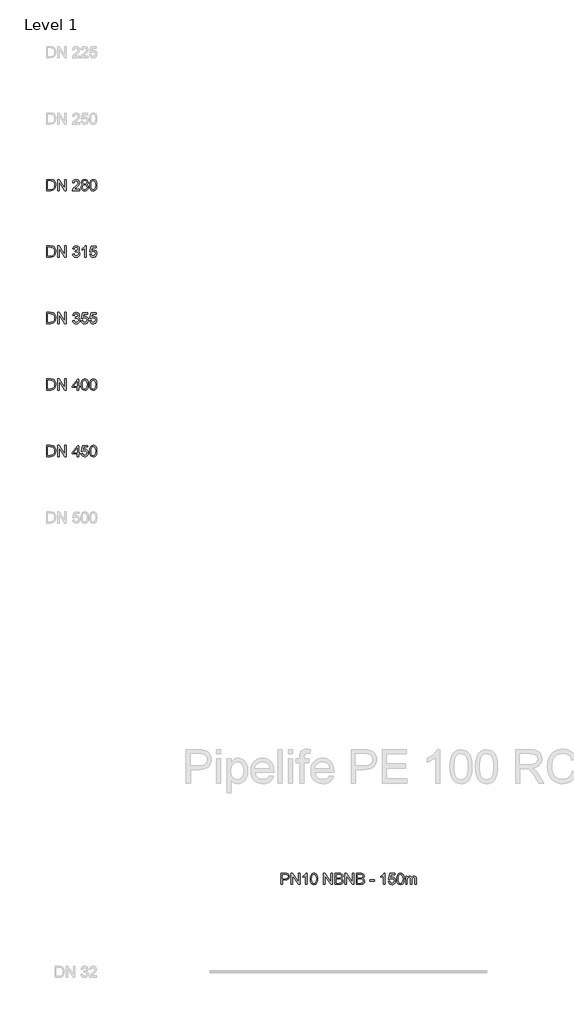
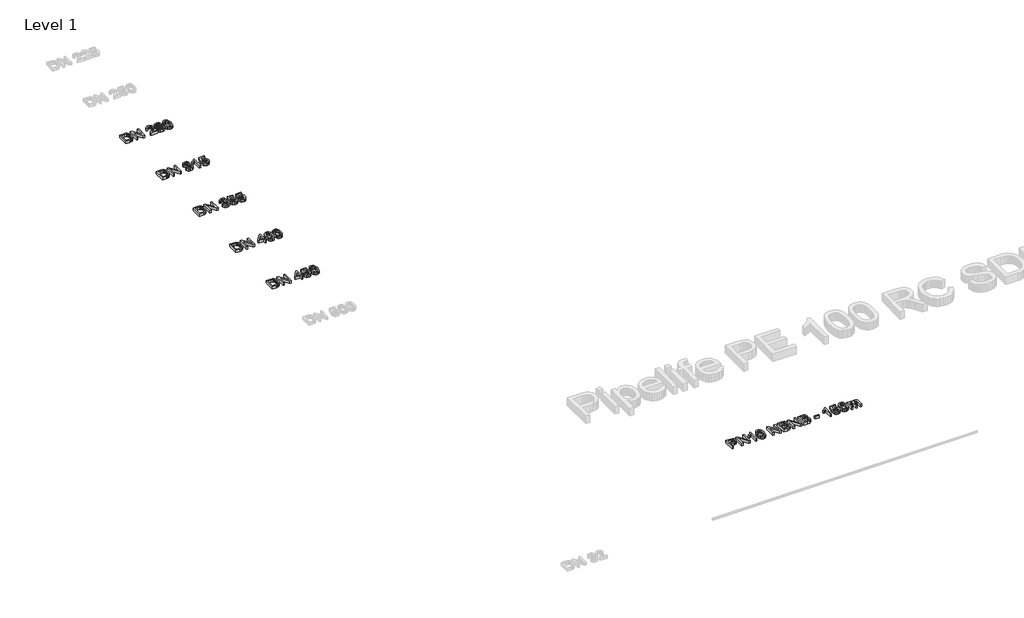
# One storey, part 5 of 17: 6 proxies.
"""IFC4 building model written with IfcOpenShell, lengths in millimetres."""

from ifc_helpers import new_model, si_unit, origin, origin_with_axes, place, context, project, spatial, polyline, outline, extrude, element, save

model = new_model("IFC4")

# Units and contexts
model_context = context("Model", 3, world=origin())
ifc_project = project(units=[si_unit("LENGTHUNIT", "METRE", prefix="MILLI")], contexts=[model_context])

# Site, building, storey
site = spatial("IfcSite", under=ifc_project)
building = spatial("IfcBuilding", under=site)
storey = spatial("IfcBuildingStorey", under=building, Name="Level 1", Elevation=0.0)

# Proxies
placement = place(None, origin())
element("IfcBuildingElementProxy", 1, Name="200mm Arial", ObjectType="200mm Arial", at=placement, inside=storey, context=model_context, shape_type="SweptSolid", body=[
    extrude(outline(polyline([(-19491.3116028, -17513.949573), (-19491.3116028, -17313.0369527), (-19422.0026349, -17313.0369527), (-19386.1464031, -17315.9309577), (-19370.1312736, -17321.5105013), (-19356.6177416, -17330.302881), (-19342.724065, -17345.606772), (-19332.8280393, -17364.6385338), (-19326.9051392, -17387.0302846), (-19324.9308391, -17412.4141423), (-19330.2773908, -17452.9547382), (-19344.0116519, -17482.2136195), (-19362.3567008, -17500.436041), (-19386.3671323, -17510.5160077), (-19418.6671715, -17513.949573), (-19491.3116028, -17513.949573)]), holes=[polyline([(-19466.1975253, -17488.8354954), (-19421.7573803, -17488.8354954), (-19389.4328156, -17485.2057264), (-19370.7934612, -17474.9540815), (-19362.0685265, -17464.0831685), (-19355.5140957, -17450.0116822), (-19351.4122114, -17432.6783089), (-19350.0449167, -17412.0217348), (-19352.7243239, -17384.6513144), (-19360.7625455, -17364.4423301), (-19372.6390025, -17350.5609162), (-19386.8331162, -17342.1732067), (-19422.4440933, -17338.1510302), (-19466.1975253, -17338.1510302), (-19466.1975253, -17488.8354954)])]), origin_with_axes(), (0.0, 0.0, 1.0), 50.0),
    extrude(outline(polyline([(-19290.3989825, -17513.949573), (-19290.3989825, -17313.0369527), (-19263.5190714, -17313.0369527), (-19158.5500754, -17472.2072292), (-19158.5500754, -17313.0369527), (-19133.4359979, -17313.0369527), (-19133.4359979, -17513.949573), (-19160.315909, -17513.949573), (-19265.284905, -17354.7302454), (-19265.284905, -17513.949573), (-19290.3989825, -17513.949573)])), origin_with_axes(), (0.0, 0.0, 1.0), 50.0),
    extrude(outline(polyline([(-19020.422649, -17460.5821582), (-18995.3085714, -17457.4428985), (-18989.6861083, -17473.2250361), (-18981.451683, -17483.8813512), (-18970.2006253, -17489.9514041), (-18955.528265, -17491.9747551), (-18938.3113877, -17489.1911147), (-18925.0185849, -17480.8401934), (-18916.5205108, -17468.3812565), (-18913.6878195, -17453.2735692), (-18916.4959853, -17438.9323028), (-18924.920483, -17427.3011004), (-18937.6737255, -17419.5939726), (-18953.4681259, -17417.02493), (-18971.0774107, -17419.7717822), (-18968.2815075, -17394.6577047), (-18964.2593311, -17394.9520102), (-18949.2129575, -17393.1493885), (-18935.7607392, -17387.7415231), (-18926.2693837, -17378.5935242), (-18923.1055985, -17365.5705016), (-18925.3987296, -17354.7241141), (-18932.2781229, -17345.925603), (-18942.7750225, -17340.0946734), (-18955.9206725, -17338.1510302), (-18969.0908479, -17340.1130675), (-18979.8575277, -17345.9991794), (-18987.7179396, -17355.809366), (-18992.1693118, -17369.5436271), (-19017.2833893, -17366.4043674), (-19009.8889612, -17343.8532011), (-18996.7310485, -17327.0164685), (-18978.7293562, -17316.5318316), (-18956.8035893, -17313.0369527), (-18941.0153203, -17314.7598667), (-18926.5146384, -17319.9286087), (-18914.2886934, -17328.0833263), (-18905.3246354, -17338.7641669), (-18899.8247996, -17351.0698196), (-18897.991521, -17364.0989736), (-18899.7328291, -17376.2390794), (-18904.9567534, -17387.2510138), (-18913.5897176, -17396.6320047), (-18925.5581452, -17403.87928), (-18909.8373212, -17410.2313758), (-18898.1877247, -17421.0471064), (-18890.9772376, -17435.7378608), (-18888.5737419, -17453.7150276), (-18893.3807333, -17478.191443), (-18907.8017075, -17498.645682), (-18929.5680589, -17512.478045), (-18956.4111818, -17517.0888326), (-18980.6913935, -17513.1524953), (-19000.4589194, -17501.3434833), (-19014.2054433, -17483.2804773), (-19020.422649, -17460.5821582)])), origin_with_axes(), (0.0, 0.0, 1.0), 50.0),
    extrude(outline(polyline([(-18772.4211333, -17513.949573), (-18797.5352108, -17513.949573), (-18797.5352108, -17357.3789958), (-18821.3249132, -17374.3260931), (-18847.7633659, -17387.0057592), (-18847.7633659, -17363.2651077), (-18810.9506409, -17339.769711), (-18797.4800285, -17326.1948653), (-18788.6079411, -17313.0369527), (-18772.4211333, -17313.0369527), (-18772.4211333, -17513.949573)])), origin_with_axes(), (0.0, 0.0, 1.0), 50.0),
    extrude(outline(polyline([(-18712.7751992, -17460.5821582), (-18687.6611216, -17457.4428985), (-18683.0503339, -17472.5199289), (-18675.005981, -17483.3172655), (-18663.5648509, -17489.8103827), (-18648.763732, -17491.9747551), (-18630.7620397, -17488.9642541), (-18617.2730332, -17479.9327511), (-18608.8485355, -17465.9225785), (-18606.0403696, -17447.9760685), (-18608.6707259, -17431.0780222), (-18616.5617947, -17418.1531014), (-18629.7748897, -17409.9493329), (-18648.3713245, -17407.2147434), (-18670.4197188, -17411.5802764), (-18684.5218619, -17422.9110419), (-18709.6359395, -17419.7717822), (-18687.6611216, -17316.1762123), (-18590.3440712, -17316.1762123), (-18590.3440712, -17341.2902899), (-18667.3540355, -17341.2902899), (-18678.0961897, -17396.619742), (-18660.1558111, -17385.7304349), (-18641.3570412, -17382.1006659), (-18617.8923012, -17386.601089), (-18598.4129496, -17400.1023582), (-18585.2979565, -17420.6792244), (-18580.9262921, -17446.4064386), (-18584.8626294, -17471.5205162), (-18596.6716415, -17493.0048247), (-18607.1072274, -17503.5415782), (-18619.2841214, -17511.0678307), (-18633.2023236, -17515.5835821), (-18648.8618339, -17517.0888326), (-18673.5283216, -17513.2199403), (-18693.1793515, -17501.6132634), (-18706.6499639, -17483.6177025), (-18712.7751992, -17460.5821582)])), origin_with_axes(), (0.0, 0.0, 1.0), 50.0),
])
element("IfcBuildingElementProxy", 2, Name="200mm Arial", ObjectType="200mm Arial", at=placement, inside=storey, context=model_context, shape_type="SweptSolid", body=[
    extrude(outline(polyline([(-19491.3116028, -19913.949573), (-19491.3116028, -19713.0369527), (-19422.0026349, -19713.0369527), (-19386.1464031, -19715.9309577), (-19370.1312736, -19721.5105013), (-19356.6177416, -19730.302881), (-19342.724065, -19745.606772), (-19332.8280393, -19764.6385338), (-19326.9051392, -19787.0302846), (-19324.9308391, -19812.4141423), (-19330.2773908, -19852.9547382), (-19344.0116519, -19882.2136195), (-19362.3567008, -19900.436041), (-19386.3671323, -19910.5160077), (-19418.6671715, -19913.949573), (-19491.3116028, -19913.949573)]), holes=[polyline([(-19466.1975253, -19888.8354954), (-19421.7573803, -19888.8354954), (-19389.4328156, -19885.2057264), (-19370.7934612, -19874.9540815), (-19362.0685265, -19864.0831685), (-19355.5140957, -19850.0116822), (-19351.4122114, -19832.6783089), (-19350.0449167, -19812.0217348), (-19352.7243239, -19784.6513144), (-19360.7625455, -19764.4423301), (-19372.6390025, -19750.5609162), (-19386.8331162, -19742.1732067), (-19422.4440933, -19738.1510302), (-19466.1975253, -19738.1510302), (-19466.1975253, -19888.8354954)])]), origin_with_axes(), (0.0, 0.0, 1.0), 50.0),
    extrude(outline(polyline([(-19290.3989825, -19913.949573), (-19290.3989825, -19713.0369527), (-19263.5190714, -19713.0369527), (-19158.5500754, -19872.2072292), (-19158.5500754, -19713.0369527), (-19133.4359979, -19713.0369527), (-19133.4359979, -19913.949573), (-19160.315909, -19913.949573), (-19265.284905, -19754.7302454), (-19265.284905, -19913.949573), (-19290.3989825, -19913.949573)])), origin_with_axes(), (0.0, 0.0, 1.0), 50.0),
    extrude(outline(polyline([(-18938.801897, -19913.949573), (-18938.801897, -19866.8606776), (-19029.8404281, -19866.8606776), (-19029.8404281, -19841.7466), (-18932.5233776, -19716.1762123), (-18913.6878195, -19716.1762123), (-18913.6878195, -19841.7466), (-18888.5737419, -19841.7466), (-18888.5737419, -19866.8606776), (-18913.6878195, -19866.8606776), (-18913.6878195, -19913.949573), (-18938.801897, -19913.949573)]), holes=[polyline([(-18938.801897, -19841.7466), (-18938.801897, -19764.1480245), (-18998.9383405, -19841.7466), (-18938.801897, -19841.7466)])]), origin_with_axes(), (0.0, 0.0, 1.0), 50.0),
    extrude(outline(polyline([(-18866.5989241, -19815.1119436), (-18864.7533827, -19782.9529258), (-18859.2167587, -19757.3054194), (-18850.0442343, -19737.7770168), (-18837.2909918, -19723.9753106), (-18820.8650607, -19715.7715422), (-18800.6744705, -19713.0369527), (-18785.1989013, -19714.6556334), (-18771.3420128, -19719.5116758), (-18759.7537299, -19727.4150073), (-18751.0839776, -19738.1755557), (-18739.3117537, -19767.9004209), (-18734.750017, -19815.1119436), (-18736.5771642, -19847.0870203), (-18742.058606, -19872.6732131), (-18751.1759481, -19892.2200098), (-18763.9107965, -19906.0768983), (-18780.3735158, -19914.335849), (-18800.6744705, -19917.0888326), (-18826.7695667, -19912.3063667), (-18846.5861435, -19897.9589689), (-18855.341735, -19882.8298218), (-18861.5957289, -19863.9789353), (-18866.5989241, -19815.1119436)]), holes=[polyline([(-18841.4848465, -19815.0628927), (-18838.5417906, -19854.5672876), (-18829.7126227, -19877.4311536), (-18816.5669727, -19888.3388547), (-18800.6744705, -19891.9747551), (-18784.7819683, -19888.326592), (-18771.6363184, -19877.3821026), (-18762.8071505, -19854.5059739), (-18759.8640945, -19815.0628927), (-18762.7090486, -19776.4475459), (-18771.2439109, -19753.4058703), (-18784.3650354, -19741.9647402), (-18800.9687761, -19738.1510302), (-18816.6896001, -19741.5110191), (-18829.3202152, -19751.5909857), (-18838.4436887, -19776.0674012), (-18841.4848465, -19815.0628927)])]), origin_with_axes(), (0.0, 0.0, 1.0), 50.0),
    extrude(outline(polyline([(-18712.7751992, -19815.1119436), (-18710.9296578, -19782.9529258), (-18705.3930338, -19757.3054194), (-18696.2205094, -19737.7770168), (-18683.4672669, -19723.9753106), (-18667.0413358, -19715.7715422), (-18646.8507456, -19713.0369527), (-18631.3751764, -19714.6556334), (-18617.5182879, -19719.5116758), (-18605.930005, -19727.4150073), (-18597.2602527, -19738.1755557), (-18585.4880288, -19767.9004209), (-18580.9262921, -19815.1119436), (-18582.7534393, -19847.0870203), (-18588.2348811, -19872.6732131), (-18597.3522232, -19892.2200098), (-18610.0870716, -19906.0768983), (-18626.5497909, -19914.335849), (-18646.8507456, -19917.0888326), (-18672.9458418, -19912.3063667), (-18692.7624186, -19897.9589689), (-18701.5180101, -19882.8298218), (-18707.772004, -19863.9789353), (-18712.7751992, -19815.1119436)]), holes=[polyline([(-18687.6611216, -19815.0628927), (-18684.7180657, -19854.5672876), (-18675.8888978, -19877.4311536), (-18662.7432478, -19888.3388547), (-18646.8507456, -19891.9747551), (-18630.9582434, -19888.326592), (-18617.8125935, -19877.3821026), (-18608.9834256, -19854.5059739), (-18606.0403696, -19815.0628927), (-18608.8853237, -19776.4475459), (-18617.420186, -19753.4058703), (-18630.5413105, -19741.9647402), (-18647.1450512, -19738.1510302), (-18662.8658751, -19741.5110191), (-18675.4964903, -19751.5909857), (-18684.6199638, -19776.0674012), (-18687.6611216, -19815.0628927)])]), origin_with_axes(), (0.0, 0.0, 1.0), 50.0),
])
element("IfcBuildingElementProxy", 3, Name="200mm Arial", ObjectType="200mm Arial", at=placement, inside=storey, context=model_context, shape_type="SweptSolid", body=[
    extrude(outline(polyline([(-19491.3116028, -16313.949573), (-19491.3116028, -16113.0369527), (-19422.0026349, -16113.0369527), (-19386.1464031, -16115.9309577), (-19370.1312736, -16121.5105013), (-19356.6177416, -16130.302881), (-19342.724065, -16145.606772), (-19332.8280393, -16164.6385338), (-19326.9051392, -16187.0302846), (-19324.9308391, -16212.4141423), (-19330.2773908, -16252.9547382), (-19344.0116519, -16282.2136195), (-19362.3567008, -16300.436041), (-19386.3671323, -16310.5160077), (-19418.6671715, -16313.949573), (-19491.3116028, -16313.949573)]), holes=[polyline([(-19466.1975253, -16288.8354954), (-19421.7573803, -16288.8354954), (-19389.4328156, -16285.2057264), (-19370.7934612, -16274.9540815), (-19362.0685265, -16264.0831685), (-19355.5140957, -16250.0116822), (-19351.4122114, -16232.6783089), (-19350.0449167, -16212.0217348), (-19352.7243239, -16184.6513144), (-19360.7625455, -16164.4423301), (-19372.6390025, -16150.5609162), (-19386.8331162, -16142.1732067), (-19422.4440933, -16138.1510302), (-19466.1975253, -16138.1510302), (-19466.1975253, -16288.8354954)])]), origin_with_axes(), (0.0, 0.0, 1.0), 50.0),
    extrude(outline(polyline([(-19290.3989825, -16313.949573), (-19290.3989825, -16113.0369527), (-19263.5190714, -16113.0369527), (-19158.5500754, -16272.2072292), (-19158.5500754, -16113.0369527), (-19133.4359979, -16113.0369527), (-19133.4359979, -16313.949573), (-19160.315909, -16313.949573), (-19265.284905, -16154.7302454), (-19265.284905, -16313.949573), (-19290.3989825, -16313.949573)])), origin_with_axes(), (0.0, 0.0, 1.0), 50.0),
    extrude(outline(polyline([(-18891.7130016, -16288.8354954), (-18891.7130016, -16313.949573), (-19023.5619087, -16313.949573), (-19020.8641074, -16296.6345937), (-19005.6092673, -16269.9754118), (-18974.1676195, -16240.8636832), (-18930.806595, -16199.0232377), (-18922.6764029, -16184.6022634), (-18919.9663388, -16170.5736967), (-18922.5231187, -16157.9982638), (-18930.1934583, -16147.5442838), (-18941.9840762, -16140.4993436), (-18956.9016912, -16138.1510302), (-18972.5673328, -16140.4441613), (-18984.7380955, -16147.3235546), (-18992.5923761, -16158.2496499), (-18995.3085714, -16172.6828868), (-19020.422649, -16169.5436271), (-19014.334202, -16145.2511527), (-19001.1701579, -16127.5069778), (-18981.6172299, -16116.6544589), (-18956.3621309, -16113.0369527), (-18930.9230909, -16117.0591291), (-18911.4069511, -16129.1256586), (-18898.9909337, -16147.1518763), (-18894.8522613, -16169.0531178), (-18899.3158962, -16192.8673456), (-18914.1538033, -16217.4909138), (-18950.1326624, -16251.9001431), (-18979.0236618, -16276.0577275), (-18990.3544272, -16288.8354954), (-18891.7130016, -16288.8354954)])), origin_with_axes(), (0.0, 0.0, 1.0), 50.0),
    extrude(outline(polyline([(-18830.0069283, -16203.2906688), (-18843.4530152, -16196.6687929), (-18852.8891884, -16187.6924722), (-18858.4626006, -16176.5456478), (-18860.3204047, -16163.4122605), (-18856.2737027, -16143.7796247), (-18844.1335969, -16127.5560287), (-18825.2612505, -16116.6667217), (-18801.0178271, -16113.0369527), (-18776.6272508, -16116.7525608), (-18757.5096498, -16127.8993853), (-18745.1488147, -16144.3804986), (-18741.0285364, -16164.0989736), (-18742.861815, -16176.8092965), (-18748.3616508, -16187.7660486), (-18757.5893575, -16196.687187), (-18770.6062488, -16203.2906688), (-18755.1490736, -16211.255314), (-18743.8980159, -16222.9846183), (-18737.0370167, -16237.9144959), (-18734.750017, -16255.4808612), (-18739.2872283, -16279.4912927), (-18752.8988621, -16299.332395), (-18773.9171868, -16312.6497232), (-18800.6744705, -16317.0888326), (-18827.4317543, -16312.6313291), (-18848.450079, -16299.2588186), (-18862.0617128, -16279.227644), (-18866.5989241, -16254.7941481), (-18864.2199538, -16236.5472012), (-18857.0830431, -16221.5376158), (-18845.5560739, -16210.2804267), (-18830.0069283, -16203.2906688)]), holes=[polyline([(-18841.4848465, -16253.9112313), (-18837.2909918, -16272.8203659), (-18831.4845876, -16280.9321639), (-18822.4530846, -16286.97156), (-18800.4782668, -16291.9747551), (-18783.3840168, -16289.3443988), (-18770.5571979, -16281.45333), (-18762.5373704, -16269.5032966), (-18759.8640945, -16254.6960463), (-18762.6232095, -16239.6374099), (-18770.9005544, -16227.4237277), (-18784.0216789, -16219.3303238), (-18801.3121327, -16216.6325225), (-18818.1672594, -16219.2935356), (-18830.8653196, -16227.2765749), (-18838.8299648, -16239.2572652), (-18841.4848465, -16253.9112313)]), polyline([(-18835.2063271, -16164.1480245), (-18832.9806411, -16175.110908), (-18826.3035829, -16183.8664995), (-18815.3713562, -16189.6054586), (-18800.3801649, -16191.518445), (-18785.7384615, -16189.6177213), (-18774.9717818, -16183.9155504), (-18768.3499059, -16175.4542645), (-18766.1426139, -16165.276196), (-18768.4234823, -16154.7118513), (-18775.2660874, -16145.974654), (-18786.1799199, -16140.1069361), (-18800.6744705, -16138.1510302), (-18815.2609916, -16140.0640166), (-18826.1564301, -16145.8029757), (-18832.9438529, -16154.2152106), (-18835.2063271, -16164.1480245)])]), origin_with_axes(), (0.0, 0.0, 1.0), 50.0),
    extrude(outline(polyline([(-18712.7751992, -16215.1119436), (-18710.9296578, -16182.9529258), (-18705.3930338, -16157.3054194), (-18696.2205094, -16137.7770168), (-18683.4672669, -16123.9753106), (-18667.0413358, -16115.7715422), (-18646.8507456, -16113.0369527), (-18631.3751764, -16114.6556334), (-18617.5182879, -16119.5116758), (-18605.930005, -16127.4150073), (-18597.2602527, -16138.1755557), (-18585.4880288, -16167.9004209), (-18580.9262921, -16215.1119436), (-18582.7534393, -16247.0870203), (-18588.2348811, -16272.6732131), (-18597.3522232, -16292.2200098), (-18610.0870716, -16306.0768983), (-18626.5497909, -16314.335849), (-18646.8507456, -16317.0888326), (-18672.9458418, -16312.3063667), (-18692.7624186, -16297.9589689), (-18701.5180101, -16282.8298218), (-18707.772004, -16263.9789353), (-18712.7751992, -16215.1119436)]), holes=[polyline([(-18687.6611216, -16215.0628927), (-18684.7180657, -16254.5672876), (-18675.8888978, -16277.4311536), (-18662.7432478, -16288.3388547), (-18646.8507456, -16291.9747551), (-18630.9582434, -16288.326592), (-18617.8125935, -16277.3821026), (-18608.9834256, -16254.5059739), (-18606.0403696, -16215.0628927), (-18608.8853237, -16176.4475459), (-18617.420186, -16153.4058703), (-18630.5413105, -16141.9647402), (-18647.1450512, -16138.1510302), (-18662.8658751, -16141.5110191), (-18675.4964903, -16151.5909857), (-18684.6199638, -16176.0674012), (-18687.6611216, -16215.0628927)])]), origin_with_axes(), (0.0, 0.0, 1.0), 50.0),
])
element("IfcBuildingElementProxy", 4, Name="200mm Arial", ObjectType="200mm Arial", at=placement, inside=storey, context=model_context, shape_type="SweptSolid", body=[
    extrude(outline(polyline([(-19491.3116028, -18713.949573), (-19491.3116028, -18513.0369527), (-19422.0026349, -18513.0369527), (-19386.1464031, -18515.9309577), (-19370.1312736, -18521.5105013), (-19356.6177416, -18530.302881), (-19342.724065, -18545.606772), (-19332.8280393, -18564.6385338), (-19326.9051392, -18587.0302846), (-19324.9308391, -18612.4141423), (-19330.2773908, -18652.9547382), (-19344.0116519, -18682.2136195), (-19362.3567008, -18700.436041), (-19386.3671323, -18710.5160077), (-19418.6671715, -18713.949573), (-19491.3116028, -18713.949573)]), holes=[polyline([(-19466.1975253, -18688.8354954), (-19421.7573803, -18688.8354954), (-19389.4328156, -18685.2057264), (-19370.7934612, -18674.9540815), (-19362.0685265, -18664.0831685), (-19355.5140957, -18650.0116822), (-19351.4122114, -18632.6783089), (-19350.0449167, -18612.0217348), (-19352.7243239, -18584.6513144), (-19360.7625455, -18564.4423301), (-19372.6390025, -18550.5609162), (-19386.8331162, -18542.1732067), (-19422.4440933, -18538.1510302), (-19466.1975253, -18538.1510302), (-19466.1975253, -18688.8354954)])]), origin_with_axes(), (0.0, 0.0, 1.0), 50.0),
    extrude(outline(polyline([(-19290.3989825, -18713.949573), (-19290.3989825, -18513.0369527), (-19263.5190714, -18513.0369527), (-19158.5500754, -18672.2072292), (-19158.5500754, -18513.0369527), (-19133.4359979, -18513.0369527), (-19133.4359979, -18713.949573), (-19160.315909, -18713.949573), (-19265.284905, -18554.7302454), (-19265.284905, -18713.949573), (-19290.3989825, -18713.949573)])), origin_with_axes(), (0.0, 0.0, 1.0), 50.0),
    extrude(outline(polyline([(-19020.422649, -18660.5821582), (-18995.3085714, -18657.4428985), (-18989.6861083, -18673.2250361), (-18981.451683, -18683.8813512), (-18970.2006253, -18689.9514041), (-18955.528265, -18691.9747551), (-18938.3113877, -18689.1911147), (-18925.0185849, -18680.8401934), (-18916.5205108, -18668.3812565), (-18913.6878195, -18653.2735692), (-18916.4959853, -18638.9323028), (-18924.920483, -18627.3011004), (-18937.6737255, -18619.5939726), (-18953.4681259, -18617.02493), (-18971.0774107, -18619.7717822), (-18968.2815075, -18594.6577047), (-18964.2593311, -18594.9520102), (-18949.2129575, -18593.1493885), (-18935.7607392, -18587.7415231), (-18926.2693837, -18578.5935242), (-18923.1055985, -18565.5705016), (-18925.3987296, -18554.7241141), (-18932.2781229, -18545.925603), (-18942.7750225, -18540.0946734), (-18955.9206725, -18538.1510302), (-18969.0908479, -18540.1130675), (-18979.8575277, -18545.9991794), (-18987.7179396, -18555.809366), (-18992.1693118, -18569.5436271), (-19017.2833893, -18566.4043674), (-19009.8889612, -18543.8532011), (-18996.7310485, -18527.0164685), (-18978.7293562, -18516.5318316), (-18956.8035893, -18513.0369527), (-18941.0153203, -18514.7598667), (-18926.5146384, -18519.9286087), (-18914.2886934, -18528.0833263), (-18905.3246354, -18538.7641669), (-18899.8247996, -18551.0698196), (-18897.991521, -18564.0989736), (-18899.7328291, -18576.2390794), (-18904.9567534, -18587.2510138), (-18913.5897176, -18596.6320047), (-18925.5581452, -18603.87928), (-18909.8373212, -18610.2313758), (-18898.1877247, -18621.0471064), (-18890.9772376, -18635.7378608), (-18888.5737419, -18653.7150276), (-18893.3807333, -18678.191443), (-18907.8017075, -18698.645682), (-18929.5680589, -18712.478045), (-18956.4111818, -18717.0888326), (-18980.6913935, -18713.1524953), (-19000.4589194, -18701.3434833), (-19014.2054433, -18683.2804773), (-19020.422649, -18660.5821582)])), origin_with_axes(), (0.0, 0.0, 1.0), 50.0),
    extrude(outline(polyline([(-18866.5989241, -18660.5821582), (-18841.4848465, -18657.4428985), (-18836.8740589, -18672.5199289), (-18828.8297059, -18683.3172655), (-18817.3885758, -18689.8103827), (-18802.5874569, -18691.9747551), (-18784.5857646, -18688.9642541), (-18771.0967581, -18679.9327511), (-18762.6722604, -18665.9225785), (-18759.8640945, -18647.9760685), (-18762.4944508, -18631.0780222), (-18770.3855196, -18618.1531014), (-18783.5986146, -18609.9493329), (-18802.1950494, -18607.2147434), (-18824.2434437, -18611.5802764), (-18838.3455868, -18622.9110419), (-18863.4596644, -18619.7717822), (-18841.4848465, -18516.1762123), (-18744.1677961, -18516.1762123), (-18744.1677961, -18541.2902899), (-18821.1777604, -18541.2902899), (-18831.9199147, -18596.619742), (-18813.979536, -18585.7304349), (-18795.1807661, -18582.1006659), (-18771.7160261, -18586.601089), (-18752.2366745, -18600.1023582), (-18739.1216814, -18620.6792244), (-18734.750017, -18646.4064386), (-18738.6863543, -18671.5205162), (-18750.4953664, -18693.0048247), (-18760.9309523, -18703.5415782), (-18773.1078464, -18711.0678307), (-18787.0260485, -18715.5835821), (-18802.6855588, -18717.0888326), (-18827.3520466, -18713.2199403), (-18847.0030765, -18701.6132634), (-18860.4736888, -18683.6177025), (-18866.5989241, -18660.5821582)])), origin_with_axes(), (0.0, 0.0, 1.0), 50.0),
    extrude(outline(polyline([(-18712.7751992, -18660.5821582), (-18687.6611216, -18657.4428985), (-18683.0503339, -18672.5199289), (-18675.005981, -18683.3172655), (-18663.5648509, -18689.8103827), (-18648.763732, -18691.9747551), (-18630.7620397, -18688.9642541), (-18617.2730332, -18679.9327511), (-18608.8485355, -18665.9225785), (-18606.0403696, -18647.9760685), (-18608.6707259, -18631.0780222), (-18616.5617947, -18618.1531014), (-18629.7748897, -18609.9493329), (-18648.3713245, -18607.2147434), (-18670.4197188, -18611.5802764), (-18684.5218619, -18622.9110419), (-18709.6359395, -18619.7717822), (-18687.6611216, -18516.1762123), (-18590.3440712, -18516.1762123), (-18590.3440712, -18541.2902899), (-18667.3540355, -18541.2902899), (-18678.0961897, -18596.619742), (-18660.1558111, -18585.7304349), (-18641.3570412, -18582.1006659), (-18617.8923012, -18586.601089), (-18598.4129496, -18600.1023582), (-18585.2979565, -18620.6792244), (-18580.9262921, -18646.4064386), (-18584.8626294, -18671.5205162), (-18596.6716415, -18693.0048247), (-18607.1072274, -18703.5415782), (-18619.2841214, -18711.0678307), (-18633.2023236, -18715.5835821), (-18648.8618339, -18717.0888326), (-18673.5283216, -18713.2199403), (-18693.1793515, -18701.6132634), (-18706.6499639, -18683.6177025), (-18712.7751992, -18660.5821582)])), origin_with_axes(), (0.0, 0.0, 1.0), 50.0),
])
element("IfcBuildingElementProxy", 5, Name="200mm Arial", ObjectType="200mm Arial", at=placement, inside=storey, context=model_context, shape_type="SweptSolid", body=[
    extrude(outline(polyline([(-19491.3116028, -21113.949573), (-19491.3116028, -20913.0369527), (-19422.0026349, -20913.0369527), (-19386.1464031, -20915.9309577), (-19370.1312736, -20921.5105013), (-19356.6177416, -20930.302881), (-19342.724065, -20945.606772), (-19332.8280393, -20964.6385338), (-19326.9051392, -20987.0302846), (-19324.9308391, -21012.4141423), (-19330.2773908, -21052.9547382), (-19344.0116519, -21082.2136195), (-19362.3567008, -21100.436041), (-19386.3671323, -21110.5160077), (-19418.6671715, -21113.949573), (-19491.3116028, -21113.949573)]), holes=[polyline([(-19466.1975253, -21088.8354954), (-19421.7573803, -21088.8354954), (-19389.4328156, -21085.2057264), (-19370.7934612, -21074.9540815), (-19362.0685265, -21064.0831685), (-19355.5140957, -21050.0116822), (-19351.4122114, -21032.6783089), (-19350.0449167, -21012.0217348), (-19352.7243239, -20984.6513144), (-19360.7625455, -20964.4423301), (-19372.6390025, -20950.5609162), (-19386.8331162, -20942.1732067), (-19422.4440933, -20938.1510302), (-19466.1975253, -20938.1510302), (-19466.1975253, -21088.8354954)])]), origin_with_axes(), (0.0, 0.0, 1.0), 50.0),
    extrude(outline(polyline([(-19290.3989825, -21113.949573), (-19290.3989825, -20913.0369527), (-19263.5190714, -20913.0369527), (-19158.5500754, -21072.2072292), (-19158.5500754, -20913.0369527), (-19133.4359979, -20913.0369527), (-19133.4359979, -21113.949573), (-19160.315909, -21113.949573), (-19265.284905, -20954.7302454), (-19265.284905, -21113.949573), (-19290.3989825, -21113.949573)])), origin_with_axes(), (0.0, 0.0, 1.0), 50.0),
    extrude(outline(polyline([(-18938.801897, -21113.949573), (-18938.801897, -21066.8606776), (-19029.8404281, -21066.8606776), (-19029.8404281, -21041.7466), (-18932.5233776, -20916.1762123), (-18913.6878195, -20916.1762123), (-18913.6878195, -21041.7466), (-18888.5737419, -21041.7466), (-18888.5737419, -21066.8606776), (-18913.6878195, -21066.8606776), (-18913.6878195, -21113.949573), (-18938.801897, -21113.949573)]), holes=[polyline([(-18938.801897, -21041.7466), (-18938.801897, -20964.1480245), (-18998.9383405, -21041.7466), (-18938.801897, -21041.7466)])]), origin_with_axes(), (0.0, 0.0, 1.0), 50.0),
    extrude(outline(polyline([(-18866.5989241, -21060.5821582), (-18841.4848465, -21057.4428985), (-18836.8740589, -21072.5199289), (-18828.8297059, -21083.3172655), (-18817.3885758, -21089.8103827), (-18802.5874569, -21091.9747551), (-18784.5857646, -21088.9642541), (-18771.0967581, -21079.9327511), (-18762.6722604, -21065.9225785), (-18759.8640945, -21047.9760685), (-18762.4944508, -21031.0780222), (-18770.3855196, -21018.1531014), (-18783.5986146, -21009.9493329), (-18802.1950494, -21007.2147434), (-18824.2434437, -21011.5802764), (-18838.3455868, -21022.9110419), (-18863.4596644, -21019.7717822), (-18841.4848465, -20916.1762123), (-18744.1677961, -20916.1762123), (-18744.1677961, -20941.2902899), (-18821.1777604, -20941.2902899), (-18831.9199147, -20996.619742), (-18813.979536, -20985.7304349), (-18795.1807661, -20982.1006659), (-18771.7160261, -20986.601089), (-18752.2366745, -21000.1023582), (-18739.1216814, -21020.6792244), (-18734.750017, -21046.4064386), (-18738.6863543, -21071.5205162), (-18750.4953664, -21093.0048247), (-18760.9309523, -21103.5415782), (-18773.1078464, -21111.0678307), (-18787.0260485, -21115.5835821), (-18802.6855588, -21117.0888326), (-18827.3520466, -21113.2199403), (-18847.0030765, -21101.6132634), (-18860.4736888, -21083.6177025), (-18866.5989241, -21060.5821582)])), origin_with_axes(), (0.0, 0.0, 1.0), 50.0),
    extrude(outline(polyline([(-18712.7751992, -21015.1119436), (-18710.9296578, -20982.9529258), (-18705.3930338, -20957.3054194), (-18696.2205094, -20937.7770168), (-18683.4672669, -20923.9753106), (-18667.0413358, -20915.7715422), (-18646.8507456, -20913.0369527), (-18631.3751764, -20914.6556334), (-18617.5182879, -20919.5116758), (-18605.930005, -20927.4150073), (-18597.2602527, -20938.1755557), (-18585.4880288, -20967.9004209), (-18580.9262921, -21015.1119436), (-18582.7534393, -21047.0870203), (-18588.2348811, -21072.6732131), (-18597.3522232, -21092.2200098), (-18610.0870716, -21106.0768983), (-18626.5497909, -21114.335849), (-18646.8507456, -21117.0888326), (-18672.9458418, -21112.3063667), (-18692.7624186, -21097.9589689), (-18701.5180101, -21082.8298218), (-18707.772004, -21063.9789353), (-18712.7751992, -21015.1119436)]), holes=[polyline([(-18687.6611216, -21015.0628927), (-18684.7180657, -21054.5672876), (-18675.8888978, -21077.4311536), (-18662.7432478, -21088.3388547), (-18646.8507456, -21091.9747551), (-18630.9582434, -21088.326592), (-18617.8125935, -21077.3821026), (-18608.9834256, -21054.5059739), (-18606.0403696, -21015.0628927), (-18608.8853237, -20976.4475459), (-18617.420186, -20953.4058703), (-18630.5413105, -20941.9647402), (-18647.1450512, -20938.1510302), (-18662.8658751, -20941.5110191), (-18675.4964903, -20951.5909857), (-18684.6199638, -20976.0674012), (-18687.6611216, -21015.0628927)])]), origin_with_axes(), (0.0, 0.0, 1.0), 50.0),
])
element("IfcBuildingElementProxy", 6, Name="200mm Arial", ObjectType="200mm Arial", at=placement, inside=storey, context=model_context, shape_type="SweptSolid", body=[
    extrude(outline(polyline([(-15255.4087753, -28838.0508707), (-15255.4087753, -28637.1382504), (-15180.9494595, -28637.1382504), (-15150.9302887, -28639.0512367), (-15126.5274497, -28648.4444903), (-15117.6553622, -28656.7708862), (-15110.7085239, -28667.8686597), (-15106.2203635, -28680.9591274), (-15104.7243101, -28695.2636056), (-15108.7648807, -28718.9429434), (-15120.8865924, -28738.673681), (-15130.5940786, -28746.4421225), (-15143.5542547, -28751.9910093), (-15179.2326769, -28756.4301187), (-15230.2946978, -28756.4301187), (-15230.2946978, -28838.0508707), (-15255.4087753, -28838.0508707)]), holes=[polyline([(-15230.2946978, -28731.3160411), (-15177.7611489, -28731.3160411), (-15155.4920254, -28729.0106473), (-15140.7767456, -28722.0944658), (-15132.5729771, -28710.9966923), (-15129.8383876, -28696.1465224), (-15131.450937, -28684.8648079), (-15136.2885853, -28675.3489269), (-15143.7504584, -28668.1874908), (-15153.2356825, -28663.9691105), (-15178.3497601, -28662.2523279), (-15230.2946978, -28662.2523279), (-15230.2946978, -28731.3160411)])]), origin_with_axes(), (0.0, 0.0, 1.0), 50.0),
    extrude(outline(polyline([(-15070.1924535, -28838.0508707), (-15070.1924535, -28637.1382504), (-15043.3125424, -28637.1382504), (-14938.3435464, -28796.3085269), (-14938.3435464, -28637.1382504), (-14913.2294689, -28637.1382504), (-14913.2294689, -28838.0508707), (-14940.10938, -28838.0508707), (-15045.0783759, -28678.8315431), (-15045.0783759, -28838.0508707), (-15070.1924535, -28838.0508707)])), origin_with_axes(), (0.0, 0.0, 1.0), 50.0),
    extrude(outline(polyline([(-14784.5198215, -28838.0508707), (-14809.633899, -28838.0508707), (-14809.633899, -28681.4802935), (-14833.4236014, -28698.4273908), (-14859.8620541, -28711.1070569), (-14859.8620541, -28687.3664054), (-14823.0493291, -28663.8710087), (-14809.5787167, -28650.2961631), (-14800.7066293, -28637.1382504), (-14784.5198215, -28637.1382504), (-14784.5198215, -28838.0508707)])), origin_with_axes(), (0.0, 0.0, 1.0), 50.0),
    extrude(outline(polyline([(-14724.8738873, -28739.2132413), (-14723.028346, -28707.0542235), (-14717.491722, -28681.4067171), (-14708.3191976, -28661.8783145), (-14695.5659551, -28648.0766083), (-14679.140024, -28639.8728399), (-14658.9494338, -28637.1382504), (-14643.4738645, -28638.7569311), (-14629.6169761, -28643.6129735), (-14618.0286932, -28651.516305), (-14609.3589409, -28662.2768534), (-14597.586717, -28692.0017186), (-14593.0249803, -28739.2132413), (-14594.8521275, -28771.188318), (-14600.3335692, -28796.7745108), (-14609.4509114, -28816.3213075), (-14622.1857598, -28830.178196), (-14638.648479, -28838.4371468), (-14658.9494338, -28841.1901304), (-14685.04453, -28836.4076644), (-14704.8611068, -28822.0602666), (-14713.6166983, -28806.9311195), (-14719.8706922, -28788.080233), (-14724.8738873, -28739.2132413)]), holes=[polyline([(-14699.7598098, -28739.1641904), (-14696.8167538, -28778.6685853), (-14687.987586, -28801.5324513), (-14674.841936, -28812.4401524), (-14658.9494338, -28816.0760528), (-14643.0569316, -28812.4278897), (-14629.9112817, -28801.4834003), (-14621.0821138, -28778.6072716), (-14618.1390578, -28739.1641904), (-14620.9840119, -28700.5488436), (-14629.5188742, -28677.507168), (-14642.6399987, -28666.0660379), (-14659.2437394, -28662.2523279), (-14674.9645633, -28665.6123168), (-14687.5951785, -28675.6922835), (-14696.718652, -28700.1686989), (-14699.7598098, -28739.1641904)])]), origin_with_axes(), (0.0, 0.0, 1.0), 50.0),
    extrude(outline(polyline([(-14483.150891, -28838.0508707), (-14483.150891, -28637.1382504), (-14456.2709799, -28637.1382504), (-14351.301984, -28796.3085269), (-14351.301984, -28637.1382504), (-14326.1879064, -28637.1382504), (-14326.1879064, -28838.0508707), (-14353.0678175, -28838.0508707), (-14458.0368135, -28678.8315431), (-14458.0368135, -28838.0508707), (-14483.150891, -28838.0508707)])), origin_with_axes(), (0.0, 0.0, 1.0), 50.0),
    extrude(outline(polyline([(-14282.2382707, -28838.0508707), (-14282.2382707, -28637.1382504), (-14205.5716629, -28637.1382504), (-14184.4858933, -28638.6159097), (-14168.023174, -28643.0488877), (-14155.4048215, -28650.5475491), (-14145.8521524, -28661.2222583), (-14139.8372818, -28673.7792971), (-14137.8323249, -28686.924947), (-14139.5184507, -28699.0221333), (-14144.5768281, -28710.3958183), (-14153.0442454, -28720.3470263), (-14164.9574907, -28728.1767814), (-14150.7265888, -28735.6079977), (-14140.2112951, -28746.9142377), (-14133.7181779, -28761.3474747), (-14131.5538055, -28778.1596818), (-14137.4644429, -28805.1622203), (-14152.1061463, -28824.3901859), (-14173.9583368, -28834.5927799), (-14206.1602741, -28838.0508707), (-14282.2382707, -28838.0508707)]), holes=[polyline([(-14257.1241932, -28812.9367931), (-14205.6207139, -28812.9367931), (-14186.9813595, -28811.9557745), (-14171.2114846, -28806.4865955), (-14160.7636359, -28795.3275083), (-14156.6678831, -28778.4049365), (-14161.4748745, -28758.8826653), (-14167.7717879, -28751.8254624), (-14177.0485456, -28747.2330688), (-14208.0732605, -28743.8730799), (-14257.1241932, -28743.8730799), (-14257.1241932, -28812.9367931)]), polyline([(-14257.1241932, -28718.7590024), (-14211.2615711, -28718.7590024), (-14184.4797619, -28716.6007613), (-14168.3665305, -28707.3056096), (-14162.9464024, -28690.9471235), (-14167.9986485, -28674.564112), (-14182.4686737, -28664.8765528), (-14214.7441874, -28662.2523279), (-14257.1241932, -28662.2523279), (-14257.1241932, -28718.7590024)])]), origin_with_axes(), (0.0, 0.0, 1.0), 50.0),
    extrude(outline(polyline([(-14097.0219489, -28838.0508707), (-14097.0219489, -28637.1382504), (-14070.1420378, -28637.1382504), (-13965.1730418, -28796.3085269), (-13965.1730418, -28637.1382504), (-13940.0589643, -28637.1382504), (-13940.0589643, -28838.0508707), (-13966.9388754, -28838.0508707), (-14071.9078714, -28678.8315431), (-14071.9078714, -28838.0508707), (-14097.0219489, -28838.0508707)])), origin_with_axes(), (0.0, 0.0, 1.0), 50.0),
    extrude(outline(polyline([(-13896.1093286, -28838.0508707), (-13896.1093286, -28637.1382504), (-13819.4427208, -28637.1382504), (-13798.3569511, -28638.6159097), (-13781.8942318, -28643.0488877), (-13769.2758794, -28650.5475491), (-13759.7232103, -28661.2222583), (-13753.7083396, -28673.7792971), (-13751.7033828, -28686.924947), (-13753.3895086, -28699.0221333), (-13758.447886, -28710.3958183), (-13766.9153033, -28720.3470263), (-13778.8285485, -28728.1767814), (-13764.5976467, -28735.6079977), (-13754.082353, -28746.9142377), (-13747.5892358, -28761.3474747), (-13745.4248634, -28778.1596818), (-13751.3355008, -28805.1622203), (-13765.9772042, -28824.3901859), (-13787.8293947, -28834.5927799), (-13820.031332, -28838.0508707), (-13896.1093286, -28838.0508707)]), holes=[polyline([(-13870.9952511, -28812.9367931), (-13819.4917717, -28812.9367931), (-13800.8524173, -28811.9557745), (-13785.0825425, -28806.4865955), (-13774.6346938, -28795.3275083), (-13770.5389409, -28778.4049365), (-13775.3459323, -28758.8826653), (-13781.6428458, -28751.8254624), (-13790.9196035, -28747.2330688), (-13821.9443184, -28743.8730799), (-13870.9952511, -28743.8730799), (-13870.9952511, -28812.9367931)]), polyline([(-13870.9952511, -28718.7590024), (-13825.132629, -28718.7590024), (-13798.3508198, -28716.6007613), (-13782.2375884, -28707.3056096), (-13776.8174603, -28690.9471235), (-13781.8697064, -28674.564112), (-13796.3397315, -28664.8765528), (-13828.6152452, -28662.2523279), (-13870.9952511, -28662.2523279), (-13870.9952511, -28718.7590024)])]), origin_with_axes(), (0.0, 0.0, 1.0), 50.0),
    extrude(outline(polyline([(-13648.1078129, -28778.4049365), (-13648.1078129, -28753.290859), (-13569.6263206, -28753.290859), (-13569.6263206, -28778.4049365), (-13648.1078129, -28778.4049365)])), origin_with_axes(), (0.0, 0.0, 1.0), 50.0),
    extrude(outline(polyline([(-13374.9922197, -28838.0508707), (-13400.1062972, -28838.0508707), (-13400.1062972, -28681.4802935), (-13423.8959996, -28698.4273908), (-13450.3344523, -28711.1070569), (-13450.3344523, -28687.3664054), (-13413.5217273, -28663.8710087), (-13400.0511149, -28650.2961631), (-13391.1790275, -28637.1382504), (-13374.9922197, -28637.1382504), (-13374.9922197, -28838.0508707)])), origin_with_axes(), (0.0, 0.0, 1.0), 50.0),
    extrude(outline(polyline([(-13315.3462856, -28784.6834559), (-13290.232208, -28781.5441962), (-13285.6214203, -28796.6212266), (-13277.5770674, -28807.4185632), (-13266.1359373, -28813.9116804), (-13251.3348184, -28816.0760528), (-13233.3331261, -28813.0655518), (-13219.8441196, -28804.0340488), (-13211.4196219, -28790.0238762), (-13208.611456, -28772.0773662), (-13211.2418123, -28755.1793199), (-13219.1328811, -28742.2543991), (-13232.3459761, -28734.0506306), (-13250.9424109, -28731.3160411), (-13272.9908052, -28735.6815741), (-13287.0929483, -28747.0123396), (-13312.2070259, -28743.8730799), (-13290.232208, -28640.2775101), (-13192.9151576, -28640.2775101), (-13192.9151576, -28665.3915876), (-13269.9251219, -28665.3915876), (-13280.6672761, -28720.7210397), (-13262.7268975, -28709.8317326), (-13243.9281276, -28706.2019636), (-13220.4633876, -28710.7023867), (-13200.984036, -28724.2036559), (-13187.8690429, -28744.7805221), (-13183.4973785, -28770.5077363), (-13187.4337158, -28795.6218139), (-13199.2427279, -28817.1061224), (-13209.6783138, -28827.6428759), (-13221.8552078, -28835.1691284), (-13235.77341, -28839.6848799), (-13251.4329203, -28841.1901304), (-13276.099408, -28837.321238), (-13295.7504379, -28825.7145611), (-13309.2210503, -28807.7190002), (-13315.3462856, -28784.6834559)])), origin_with_axes(), (0.0, 0.0, 1.0), 50.0),
    extrude(outline(polyline([(-13161.5225606, -28739.2132413), (-13159.6770193, -28707.0542235), (-13154.1403953, -28681.4067171), (-13144.9678709, -28661.8783145), (-13132.2146284, -28648.0766083), (-13115.7886973, -28639.8728399), (-13095.5981071, -28637.1382504), (-13080.1225378, -28638.7569311), (-13066.2656494, -28643.6129735), (-13054.6773665, -28651.516305), (-13046.0076142, -28662.2768534), (-13034.2353903, -28692.0017186), (-13029.6736536, -28739.2132413), (-13031.5008008, -28771.188318), (-13036.9822425, -28796.7745108), (-13046.0995847, -28816.3213075), (-13058.8344331, -28830.178196), (-13075.2971523, -28838.4371468), (-13095.5981071, -28841.1901304), (-13121.6932033, -28836.4076644), (-13141.5097801, -28822.0602666), (-13150.2653716, -28806.9311195), (-13156.5193655, -28788.080233), (-13161.5225606, -28739.2132413)]), holes=[polyline([(-13136.4084831, -28739.1641904), (-13133.4654271, -28778.6685853), (-13124.6362593, -28801.5324513), (-13111.4906093, -28812.4401524), (-13095.5981071, -28816.0760528), (-13079.7056049, -28812.4278897), (-13066.5599549, -28801.4834003), (-13057.7307871, -28778.6072716), (-13054.7877311, -28739.1641904), (-13057.6326852, -28700.5488436), (-13066.1675475, -28677.507168), (-13079.288672, -28666.0660379), (-13095.8924127, -28662.2523279), (-13111.6132366, -28665.6123168), (-13124.2438518, -28675.6922835), (-13133.3673253, -28700.1686989), (-13136.4084831, -28739.1641904)])]), origin_with_axes(), (0.0, 0.0, 1.0), 50.0),
    extrude(outline(polyline([(-13001.4203163, -28838.0508707), (-13001.4203163, -28690.5056651), (-12976.3062388, -28690.5056651), (-12976.3062388, -28714.7858768), (-12968.7523952, -28703.632921), (-12959.0403105, -28694.8957236), (-12947.5010786, -28689.248735), (-12934.4657932, -28687.3664054), (-12920.4985401, -28689.2855232), (-12909.3026647, -28695.0428764), (-12900.9394807, -28704.2583204), (-12895.4703017, -28716.5517104), (-12886.3161714, -28703.7831395), (-12875.8744541, -28694.6627317), (-12864.1451498, -28689.190487), (-12851.1282586, -28687.3664054), (-12832.2497809, -28690.4014319), (-12818.2886591, -28699.5065113), (-12809.6618264, -28714.9268982), (-12806.7862154, -28736.9078475), (-12806.7862154, -28838.0508707), (-12831.900293, -28838.0508707), (-12831.900293, -28747.6990526), (-12834.2302123, -28726.7297789), (-12842.6669727, -28716.4045576), (-12857.0143705, -28712.480483), (-12870.619873, -28714.9943433), (-12881.7115151, -28722.5359242), (-12889.0875491, -28735.6202605), (-12891.5462271, -28754.762387), (-12891.5462271, -28838.0508707), (-12916.6603046, -28838.0508707), (-12916.6603046, -28744.9031495), (-12918.1134385, -28730.7029045), (-12922.4728402, -28720.5738869), (-12930.1431798, -28714.5038339), (-12941.5291275, -28712.480483), (-12960.119431, -28717.8760856), (-12967.4770709, -28724.5224869), (-12972.480266, -28733.6704859), (-12976.3062388, -28763.6406058), (-12976.3062388, -28838.0508707), (-13001.4203163, -28838.0508707)])), origin_with_axes(), (0.0, 0.0, 1.0), 50.0),
])

save(model, "model.ifc")
